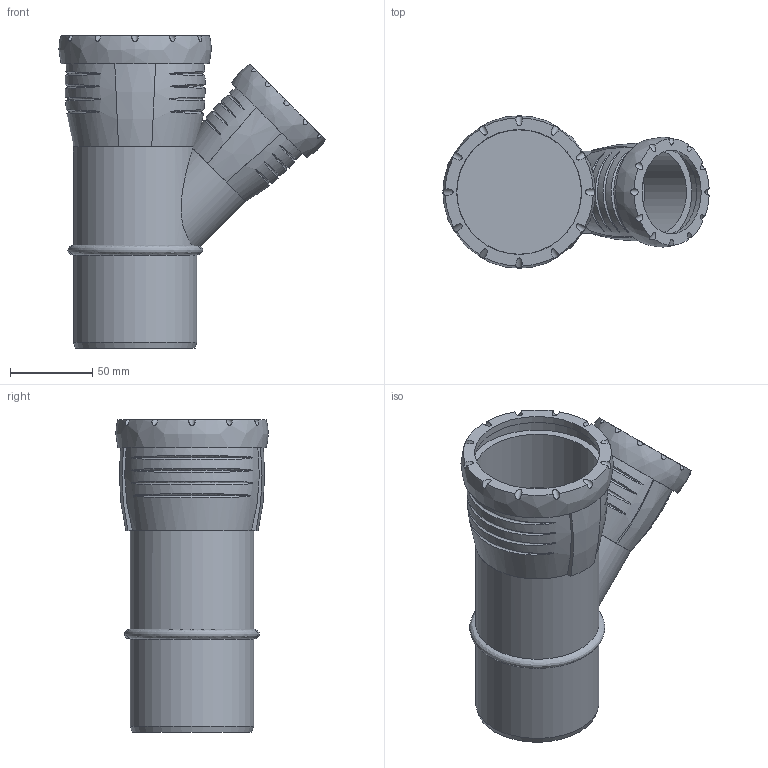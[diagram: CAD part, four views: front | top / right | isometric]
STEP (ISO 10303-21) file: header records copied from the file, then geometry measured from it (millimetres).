
FILE_DESCRIPTION(/* description */ (''),/* implementation_level */ '2;1');
FILE_NAME(/* name */ 'H:\Geberit-Teile\Export\Abzweig PP\stp\393332.stp',/* time_stamp */ '2017-02-13T13:16:12+01:00',/* author */ ('seihe2'),/* organization */ (''),/* preprocessor_version */ 'ST-DEVELOPER v15.2',/* originating_system */ 'Autodesk Inventor 2014',/* authorisation */ '');
FILE_SCHEMA (('AUTOMOTIVE_DESIGN { 1 0 10303 214 3 1 1 }'));
Length unit declared in the file: millimetre
Products named in the file (1): 393332
Bounding box: 162.33 x 92.99 x 190.32 mm (x, y, z)
Volume: 622166 mm3; surface area: 135013.4 mm2
Topology: 5 solids, 5 shells, 106 faces, 246 edges, 174 vertices
Faces by surface type: bspline 47, cylinder 39, plane 19, cone 1
Full cylindrical faces by diameter (mm): 36.243 x1, 50.7 x1, 51 x1, 58.903 x1, 60.1 x1, 67.6 x1, 75.2 x3, 75.9 x1, 76.2 x1, 85 x1
Entity records: 7739 total; most frequent: CARTESIAN_POINT 5546, ORIENTED_EDGE 462, DIRECTION 325, EDGE_CURVE 230, VERTEX_POINT 171, AXIS2_PLACEMENT_3D 162, EDGE_LOOP 147, B_SPLINE_CURVE_WITH_KNOTS 125
